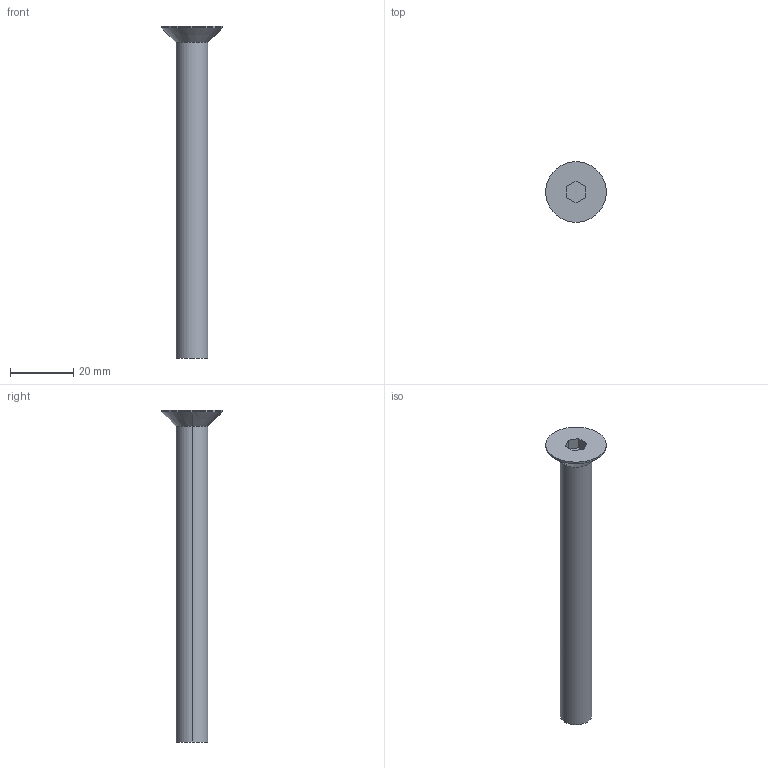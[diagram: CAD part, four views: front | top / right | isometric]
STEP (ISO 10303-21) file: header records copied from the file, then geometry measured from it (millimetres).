
FILE_DESCRIPTION (( 'STEP AP214' ), '1' );
FILE_NAME ('COUNTERSHUNK_HEAD_BOLT_M10(L=100).STEP', '2021-09-18T10:24:56', ( '' ), ( '' ), 'SwSTEP 2.0', 'SolidWorks 2018', '' );
FILE_SCHEMA (( 'AUTOMOTIVE_DESIGN' ));
Length unit declared in the file: millimetre
Products named in the file (1): COUNTERSHUNK_HEAD_BOLT_M10(L=100)
Bounding box: 19.22 x 19.22 x 105.22 mm (x, y, z)
Volume: 8717.2 mm3; surface area: 3921.2 mm2
Topology: 1 solids, 1 shells, 15 faces, 32 edges, 20 vertices
Faces by surface type: plane 9, cylinder 4, cone 2
Entity records: 436 total; most frequent: DIRECTION 72, CARTESIAN_POINT 68, ORIENTED_EDGE 64, EDGE_CURVE 32, AXIS2_PLACEMENT_3D 24, LINE 24, VECTOR 24, VERTEX_POINT 20
